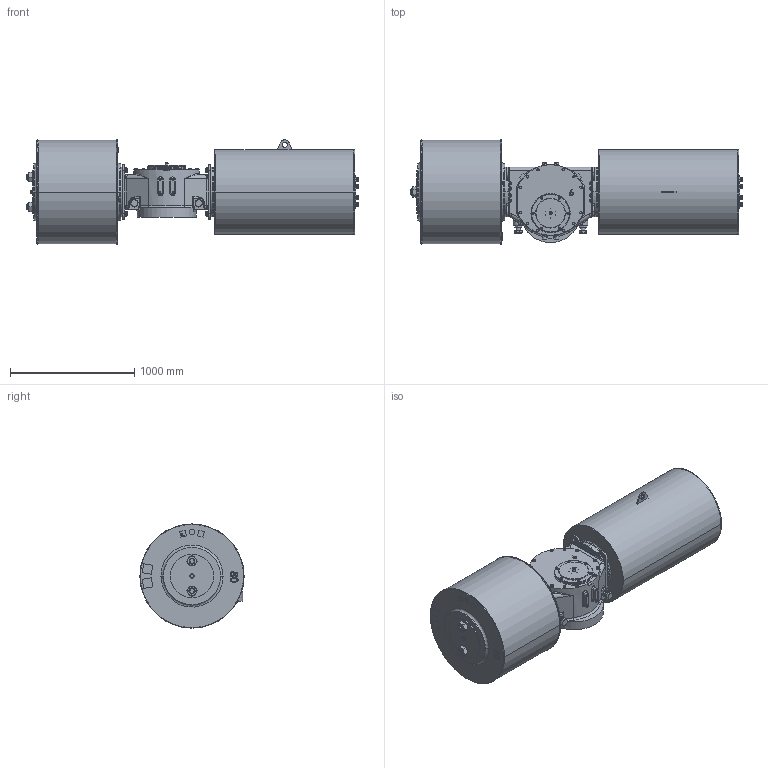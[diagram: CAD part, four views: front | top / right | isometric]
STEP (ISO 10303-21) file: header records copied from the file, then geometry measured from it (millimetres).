
FILE_DESCRIPTION (( 'STEP AP203' ), '1' );
FILE_NAME ('VTS6-800-SR-FC.STEP', '2023-01-01T09:56:13', ( '' ), ( '' ), 'SwSTEP 2.0', 'SolidWorks 2020', '' );
FILE_SCHEMA (( 'CONFIG_CONTROL_DESIGN' ));
Length unit declared in the file: millimetre
Products named in the file (1): VTS6-800-SR-FC
Bounding box: 2673.72 x 839 x 839.5 mm (x, y, z)
Volume: 888993125.6 mm3; surface area: 8639052.2 mm2
Topology: 4 solids, 15 shells, 2462 faces, 6295 edges, 3987 vertices
Faces by surface type: plane 985, cylinder 773, cone 609, bspline 95
Entity records: 89892 total; most frequent: CARTESIAN_POINT 31101, ORIENTED_EDGE 12450, DIRECTION 12234, EDGE_CURVE 6225, AXIS2_PLACEMENT_3D 4894, VERTEX_POINT 3987, EDGE_LOOP 2784, CIRCLE 2526
